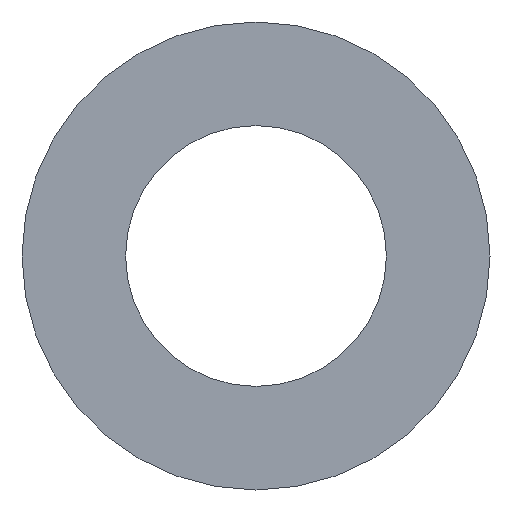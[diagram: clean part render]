
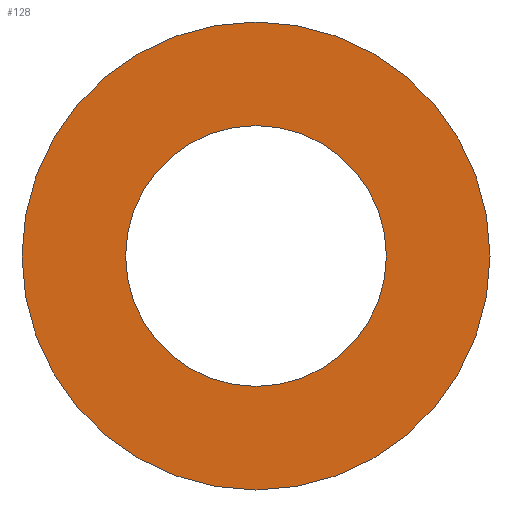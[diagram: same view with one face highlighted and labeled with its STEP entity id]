
A CAD part, left-side view. The second image highlights one B-rep face of the part: STEP entity #128.
In plain terms, the highlighted planar face has unit normal (-1, 0, 0).
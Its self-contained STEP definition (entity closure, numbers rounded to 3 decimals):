
#3 = EDGE_LOOP ( 'NONE', ( #300, #249 ) ) ;
#6 = CARTESIAN_POINT ( 'NONE',  ( 0., 0., 0. ) ) ;
#8 = CARTESIAN_POINT ( 'NONE',  ( 0., 0., 26.75 ) ) ;
#15 = DIRECTION ( 'NONE',  ( -1., 0., 0. ) ) ;
#30 = AXIS2_PLACEMENT_3D ( 'NONE', #312, #253, #313 ) ;
#33 = EDGE_CURVE ( 'NONE', #89, #98, #330, .T. ) ;
#35 = VERTEX_POINT ( 'NONE', #8 ) ;
#69 = EDGE_CURVE ( 'NONE', #98, #89, #390, .T. ) ;
#81 = CARTESIAN_POINT ( 'NONE',  ( 0., 0., 48. ) ) ;
#89 = VERTEX_POINT ( 'NONE', #81 ) ;
#98 = VERTEX_POINT ( 'NONE', #171 ) ;
#121 = CARTESIAN_POINT ( 'NONE',  ( 0., 0., 0. ) ) ;
#127 = ORIENTED_EDGE ( 'NONE', *, *, #216, .T. ) ;
#128 = ADVANCED_FACE ( 'NONE', ( #169, #223 ), #282, .F. ) ;
#139 = DIRECTION ( 'NONE',  ( 1., 0., 0. ) ) ;
#169 = FACE_BOUND ( 'NONE', #336, .T. ) ;
#171 = CARTESIAN_POINT ( 'NONE',  ( 0., 0., -48. ) ) ;
#184 = ORIENTED_EDGE ( 'NONE', *, *, #305, .T. ) ;
#195 = CARTESIAN_POINT ( 'NONE',  ( 0., 0., -26.75 ) ) ;
#198 = CARTESIAN_POINT ( 'NONE',  ( 0., 0., 0. ) ) ;
#216 = EDGE_CURVE ( 'NONE', #328, #35, #286, .T. ) ;
#223 = FACE_OUTER_BOUND ( 'NONE', #3, .T. ) ;
#225 = CARTESIAN_POINT ( 'NONE',  ( 0., 0., 0. ) ) ;
#238 = DIRECTION ( 'NONE',  ( 1., 0., 0. ) ) ;
#249 = ORIENTED_EDGE ( 'NONE', *, *, #69, .T. ) ;
#253 = DIRECTION ( 'NONE',  ( 1., 0., 0. ) ) ;
#254 = DIRECTION ( 'NONE',  ( 0., 0., -1. ) ) ;
#256 = AXIS2_PLACEMENT_3D ( 'NONE', #225, #15, #337 ) ;
#259 = DIRECTION ( 'NONE',  ( 0., 0., 1. ) ) ;
#270 = AXIS2_PLACEMENT_3D ( 'NONE', #121, #238, #359 ) ;
#280 = AXIS2_PLACEMENT_3D ( 'NONE', #6, #139, #254 ) ;
#282 = PLANE ( 'NONE',  #280 ) ;
#286 = CIRCLE ( 'NONE', #270, 26.75 ) ;
#293 = CIRCLE ( 'NONE', #30, 26.75 ) ;
#300 = ORIENTED_EDGE ( 'NONE', *, *, #33, .T. ) ;
#305 = EDGE_CURVE ( 'NONE', #35, #328, #293, .T. ) ;
#312 = CARTESIAN_POINT ( 'NONE',  ( 0., 0., 0. ) ) ;
#313 = DIRECTION ( 'NONE',  ( 0., 0., -1. ) ) ;
#314 = AXIS2_PLACEMENT_3D ( 'NONE', #198, #375, #259 ) ;
#328 = VERTEX_POINT ( 'NONE', #195 ) ;
#330 = CIRCLE ( 'NONE', #256, 48. ) ;
#336 = EDGE_LOOP ( 'NONE', ( #184, #127 ) ) ;
#337 = DIRECTION ( 'NONE',  ( 0., 0., 1. ) ) ;
#359 = DIRECTION ( 'NONE',  ( 0., 0., -1. ) ) ;
#375 = DIRECTION ( 'NONE',  ( -1., 0., 0. ) ) ;
#390 = CIRCLE ( 'NONE', #314, 48. ) ;
